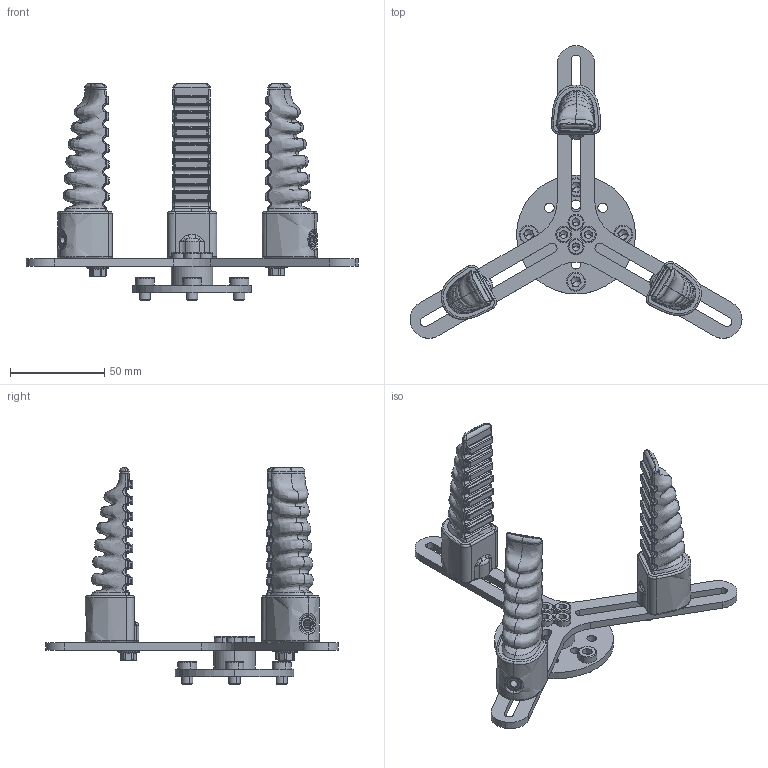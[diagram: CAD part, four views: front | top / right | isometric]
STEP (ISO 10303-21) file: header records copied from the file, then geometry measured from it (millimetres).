
FILE_DESCRIPTION (( 'STEP AP214' ), '1' );
FILE_NAME ('SG.AN.F1.S60.P3.A185.R50.STEP', '2022-03-14T05:06:30', ( '' ), ( '' ), 'SwSTEP 2.0', 'SolidWorks 2019', '' );
FILE_SCHEMA (( 'AUTOMOTIVE_DESIGN' ));
Length unit declared in the file: millimetre
Products named in the file (23): SG.AN.F1; M3x20-ISO_7380-2; SG.A.IL.F1.02.S60; DIN_6921_Schraube M5x12 Flansch; Finger_lang - gefuellt; KVT 6238 M5-316; SG_FI.60; DIN 7984 I-6Kt Zyl-Schr. A2 M 5x8; SG.FI..IF; SG.AN.R50; SG.AN.F1.S60.P3.A185.R50; o-Ring_3x1; DIN 7984 I-6Kt Zyl-Schr. A2 M 6x8; SG.FI.SD; SG.AN.P3.A185
Assembly tree (47 placements, depth 4):
  SG.AN.F1.S60.P3.A185.R50
    SG.AN.P3.A185
    SG.A.IL.F1.02.S60
      SG_FI.60
        Finger_lang - gefuellt
        SG.FI..IF
        SG.FI.SD
      SG.AN.F1
        SG.AN.F1
        KVT 6238 M5-316  x2
        M3x20-ISO_7380-2
        o-Ring_3x1
    SG.AN.R50
      SG.AN.R50
      DIN 7984 I-6Kt Zyl-Schr. A2 M 6x8  x4
    DIN 7984 I-6Kt Zyl-Schr. A2 M 5x8  x4
    SG.A.IL.F1.02.S60
      SG_FI.60
        Finger_lang - gefuellt
        SG.FI..IF
        SG.FI.SD
      SG.AN.F1
        SG.AN.F1
        KVT 6238 M5-316  x2
        M3x20-ISO_7380-2
        o-Ring_3x1
    SG.A.IL.F1.02.S60
      SG_FI.60
        Finger_lang - gefuellt
        SG.FI..IF
        SG.FI.SD
      SG.AN.F1
        SG.AN.F1
        KVT 6238 M5-316  x2
        M3x20-ISO_7380-2
        o-Ring_3x1
    DIN_6921_Schraube M5x12 Flansch  x3
Bounding box: 175.88 x 155 x 114.65 mm (x, y, z)
Volume: 137276.6 mm3; surface area: 78333.4 mm2
Topology: 40 solids, 40 shells, 3025 faces, 7282 edges, 4274 vertices
Faces by surface type: bspline 1248, cylinder 600, plane 566, sphere 270, cone 187, torus 154
Entity records: 78452 total; most frequent: CARTESIAN_POINT 56109, ORIENTED_EDGE 4902, DIRECTION 3919, EDGE_CURVE 2451, AXIS2_PLACEMENT_3D 1663, VERTEX_POINT 1478, EDGE_LOOP 1117, FACE_OUTER_BOUND 1028
